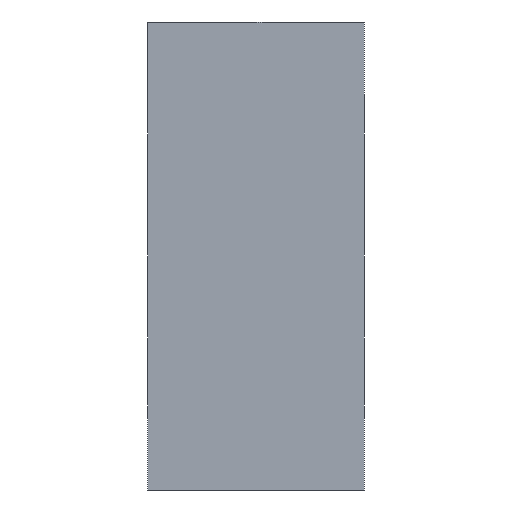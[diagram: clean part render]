
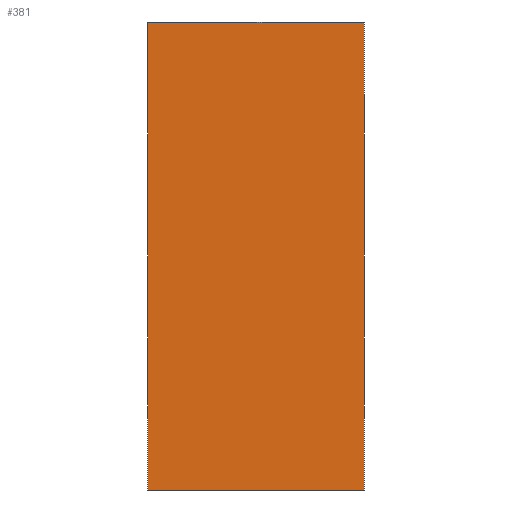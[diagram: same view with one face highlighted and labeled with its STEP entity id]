
A CAD part, left-side view. The second image highlights one B-rep face of the part: STEP entity #381.
In plain terms, the highlighted planar face has unit normal (-1, 0, 0).
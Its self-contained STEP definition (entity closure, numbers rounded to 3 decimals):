
#269=CARTESIAN_POINT('',(-38.206,1768.911,13.321));
#270=VERTEX_POINT('',#269);
#277=CARTESIAN_POINT('',(-38.206,1756.911,13.321));
#278=VERTEX_POINT('',#277);
#279=CARTESIAN_POINT('',(-38.206,1768.911,13.321));
#280=DIRECTION('',(0.0,-1.0,0.0));
#281=VECTOR('',#280,12.0);
#282=LINE('',#279,#281);
#283=EDGE_CURVE('',#270,#278,#282,.T.);
#302=CARTESIAN_POINT('',(-38.206,1756.911,-12.679));
#303=VERTEX_POINT('',#302);
#304=CARTESIAN_POINT('',(-38.206,1756.911,13.321));
#305=DIRECTION('',(0.0,0.0,-1.0));
#306=VECTOR('',#305,26.);
#307=LINE('',#304,#306);
#308=EDGE_CURVE('',#278,#303,#307,.T.);
#327=CARTESIAN_POINT('',(-38.206,1768.911,-12.679));
#328=VERTEX_POINT('',#327);
#341=CARTESIAN_POINT('',(-38.206,1756.911,-12.679));
#342=DIRECTION('',(0.0,1.0,0.0));
#343=VECTOR('',#342,12.0);
#344=LINE('',#341,#343);
#345=EDGE_CURVE('',#303,#328,#344,.T.);
#355=CARTESIAN_POINT('',(-38.206,1768.911,-12.679));
#356=DIRECTION('',(0.0,0.0,1.0));
#357=VECTOR('',#356,26.);
#358=LINE('',#355,#357);
#359=EDGE_CURVE('',#328,#270,#358,.T.);
#370=CARTESIAN_POINT('',(-38.206,1756.911,13.321));
#371=DIRECTION('',(-1.0,0.0,0.0));
#372=DIRECTION('',(0.0,1.0,0.0));
#373=AXIS2_PLACEMENT_3D('',#370,#371,#372);
#374=PLANE('',#373);
#375=ORIENTED_EDGE('',*,*,#359,.F.);
#376=ORIENTED_EDGE('',*,*,#345,.F.);
#377=ORIENTED_EDGE('',*,*,#308,.F.);
#378=ORIENTED_EDGE('',*,*,#283,.F.);
#379=EDGE_LOOP('',(#375,#376,#377,#378));
#380=FACE_OUTER_BOUND('',#379,.T.);
#381=ADVANCED_FACE('',(#380),#374,.T.);
